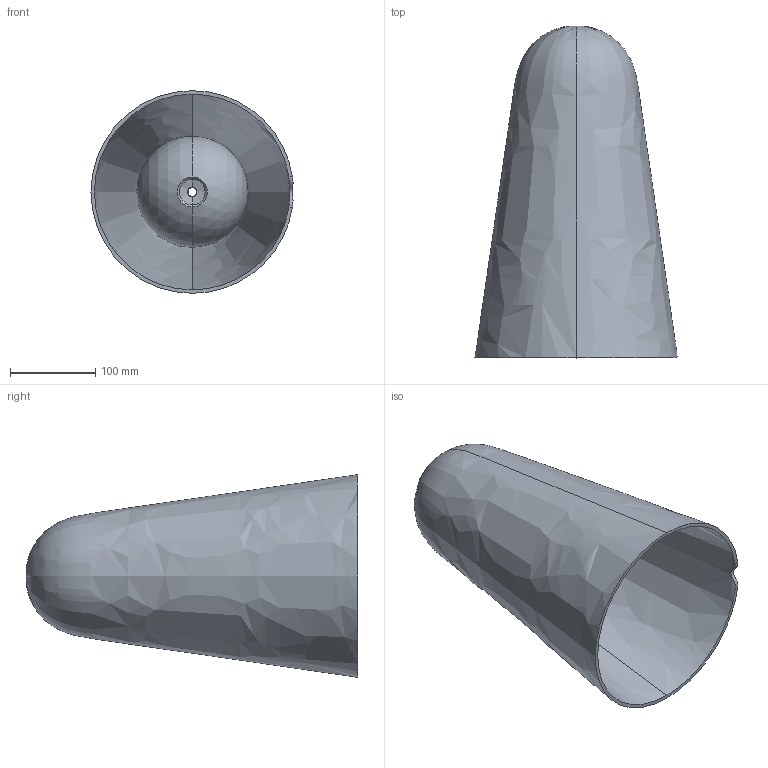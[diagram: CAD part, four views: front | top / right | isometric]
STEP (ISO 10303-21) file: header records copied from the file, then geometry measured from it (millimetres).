
FILE_DESCRIPTION (( 'STEP AP214' ), '1' );
FILE_NAME ('285_STD_T_LD_3D.STEP', '2021-05-31T11:01:12', ( '' ), ( '' ), 'SwSTEP 2.0', 'SolidWorks 2021', '' );
FILE_SCHEMA (( 'AUTOMOTIVE_DESIGN' ));
Length unit declared in the file: millimetre
Products named in the file (1): 285_STD_T_LD_3D
Bounding box: 236.64 x 388.63 x 237.31 mm (x, y, z)
Volume: 1085206.5 mm3; surface area: 538645.3 mm2
Topology: 2 solids, 2 shells, 22 faces, 58 edges, 32 vertices
Faces by surface type: cylinder 6, bspline 5, cone 4, sphere 4, torus 2, plane 1
Entity records: 1903 total; most frequent: CARTESIAN_POINT 1140, DIRECTION 108, ORIENTED_EDGE 96, AXIS2_PLACEMENT_3D 48, EDGE_CURVE 48, CIRCLE 30, UNCERTAINTY_MEASURE_WITH_UNIT 26, VERTEX_POINT 26
